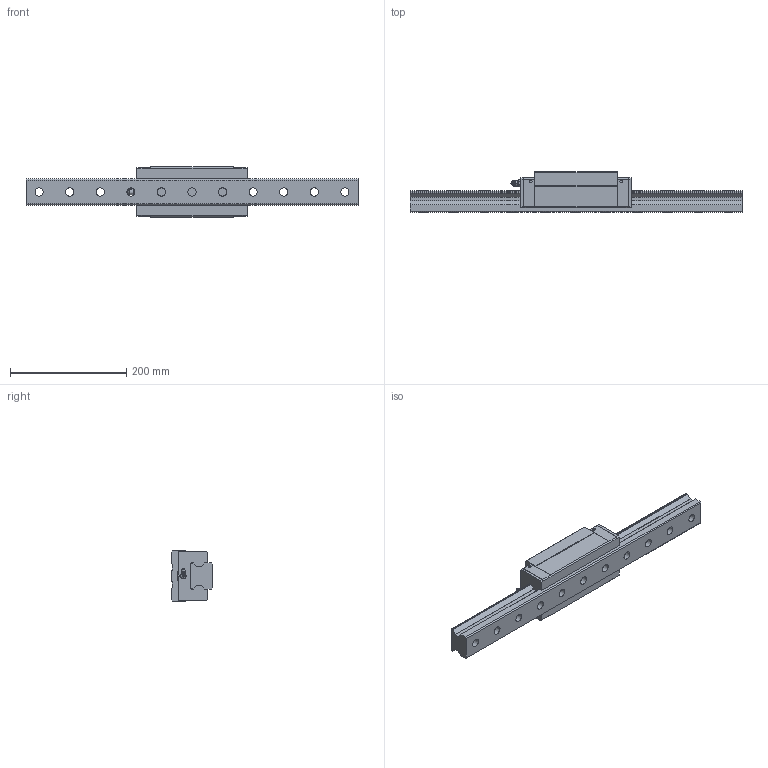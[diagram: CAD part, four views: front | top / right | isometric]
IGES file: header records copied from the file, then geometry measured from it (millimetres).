
Start section: Data from Parasolid IGES Translator 26.0.171, Copyright(c) 2006 Siemens PLM Software. All Rights Reserved.
Global section: file name: SRG45LR1SS-570LH_G22-5_0_B-PT18_190_0_0_0_1.igs; native system: By Siemens PLM Incorporated; preprocessor: XPlus GENERIC/IGES 26.0.171; author: Noname; organization: Noname; date: 20240523.102215; units: millimetre
Bounding box: 570 x 70 x 86 mm (x, y, z)
Surface area: 200049.3 mm2 (no closed solid volume)
Topology: 0 solids, 0 shells, 217 faces, 1081 edges, 989 vertices
Faces by surface type: extrusion 140, revolution 77
